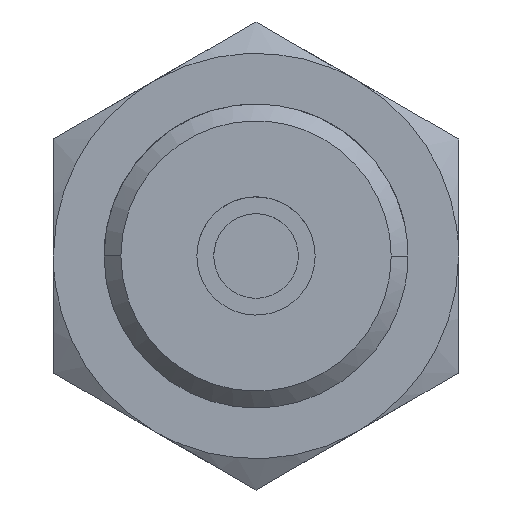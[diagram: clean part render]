
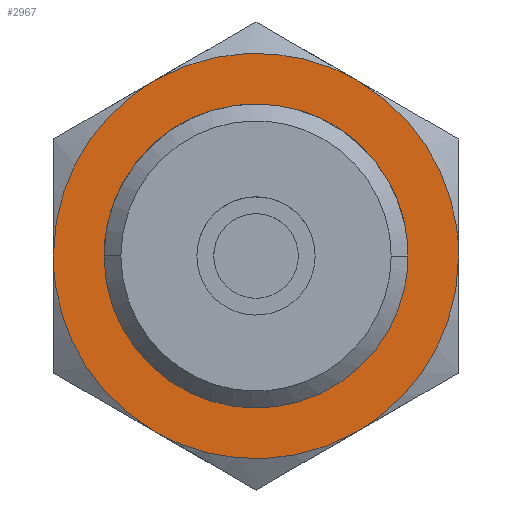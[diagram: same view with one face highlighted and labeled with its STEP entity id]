
A CAD part, front view. The second image highlights one B-rep face of the part: STEP entity #2967.
In plain terms, the highlighted free-form (B-spline) face has degree [1, 1] with [2, 2] control points.
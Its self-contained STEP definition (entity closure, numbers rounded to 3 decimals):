
#2556=CARTESIAN_POINT('V76',(9.0,-25.0,0.));
#2557=VERTEX_POINT('V76',#2556);
#2558=CARTESIAN_POINT('V77',(-9.0,-25.0,0.));
#2559=VERTEX_POINT('V77',#2558);
#2560=CARTESIAN_POINT('E129',(9.0,-25.0,0.0));
#2561=CARTESIAN_POINT('E129',(9.0,-25.0,9.0));
#2562=CARTESIAN_POINT('E129',(0.0,-25.0,9.0));
#2563=CARTESIAN_POINT('E129',(-9.0,-25.0,9.0));
#2564=CARTESIAN_POINT('E129',(-9.0,-25.0,0.0));
#2572=(BOUNDED_CURVE()B_SPLINE_CURVE(2,(#2560,#2561,#2562,#2563,
   #2564),.CIRCULAR_ARC.,.F.,.U.)B_SPLINE_CURVE_WITH_KNOTS((3,2,3),
   (0.0,0.5,1.0),.UNSPECIFIED.)CURVE()
   GEOMETRIC_REPRESENTATION_ITEM()RATIONAL_B_SPLINE_CURVE((1.0,
   0.707,1.0,0.707,1.0))REPRESENTATION_ITEM(
   'E129'));
#2573=EDGE_CURVE('E129',#2557,#2559,#2572,.T.);
#2619=CARTESIAN_POINT('E135',(-9.0,-25.0,0.0));
#2620=CARTESIAN_POINT('E135',(-9.0,-25.0,-9.0));
#2621=CARTESIAN_POINT('E135',(0.0,-25.0,-9.0));
#2622=CARTESIAN_POINT('E135',(9.0,-25.0,-9.0));
#2623=CARTESIAN_POINT('E135',(9.0,-25.0,0.0));
#2631=(BOUNDED_CURVE()B_SPLINE_CURVE(2,(#2619,#2620,#2621,#2622,
   #2623),.CIRCULAR_ARC.,.F.,.U.)B_SPLINE_CURVE_WITH_KNOTS((3,2,3),
   (0.0,0.5,1.0),.UNSPECIFIED.)CURVE()
   GEOMETRIC_REPRESENTATION_ITEM()RATIONAL_B_SPLINE_CURVE((1.0,
   0.707,1.0,0.707,1.0))REPRESENTATION_ITEM(
   'E135'));
#2632=EDGE_CURVE('E135',#2559,#2557,#2631,.T.);
#2740=CARTESIAN_POINT('V59',(-6.,-25.0,
   -10.392));
#2741=VERTEX_POINT('V59',#2740);
#2757=CARTESIAN_POINT('V53',(6.,-25.0,
   -10.392));
#2758=VERTEX_POINT('V53',#2757);
#2772=CARTESIAN_POINT('E124',(6.0,-25.0,-10.392));
#2773=CARTESIAN_POINT('E124',(0.,-25.0,
   -13.856));
#2774=CARTESIAN_POINT('E124',(-6.0,-25.0,-10.392));
#2782=(BOUNDED_CURVE()B_SPLINE_CURVE(2,(#2772,#2773,#2774),
   .CIRCULAR_ARC.,.F.,.U.)CURVE()GEOMETRIC_REPRESENTATION_ITEM()
   QUASI_UNIFORM_CURVE()RATIONAL_B_SPLINE_CURVE((1.0,
   0.866,1.0))REPRESENTATION_ITEM('E124'));
#2783=EDGE_CURVE('E124',#2758,#2741,#2782,.T.);
#2865=CARTESIAN_POINT('V66',(12.0,-25.0,0.));
#2866=VERTEX_POINT('V66',#2865);
#2880=CARTESIAN_POINT('E123',(12.0,-25.0,0.0));
#2881=CARTESIAN_POINT('E123',(12.0,-25.0,-6.928));
#2882=CARTESIAN_POINT('E123',(6.0,-25.0,-10.392));
#2890=(BOUNDED_CURVE()B_SPLINE_CURVE(2,(#2880,#2881,#2882),
   .CIRCULAR_ARC.,.F.,.U.)CURVE()GEOMETRIC_REPRESENTATION_ITEM()
   QUASI_UNIFORM_CURVE()RATIONAL_B_SPLINE_CURVE((1.0,
   0.866,1.0))REPRESENTATION_ITEM('E123'));
#2891=EDGE_CURVE('E123',#2866,#2758,#2890,.T.);
#2896=CARTESIAN_POINT('F63',(-13.2,-25.0,
   13.178));
#2897=CARTESIAN_POINT('F63',(-13.2,-25.0,
   -13.178));
#2898=CARTESIAN_POINT('F63',(13.2,-25.0,
   13.178));
#2899=CARTESIAN_POINT('F63',(13.2,-25.0,
   -13.178));
#2900=QUASI_UNIFORM_SURFACE('F63',1,1,((#2896,#2898),(#2897,#2899))
,.PLANE_SURF.,.F.,.F.,.U.);
#2901=ORIENTED_EDGE('F53',*,*,#2891,.F.);
#2902=CARTESIAN_POINT('V70',(6.,-25.0,
   10.392));
#2903=VERTEX_POINT('V70',#2902);
#2904=CARTESIAN_POINT('E128',(6.0,-25.0,10.392));
#2905=CARTESIAN_POINT('E128',(12.0,-25.0,6.928));
#2906=CARTESIAN_POINT('E128',(12.0,-25.0,0.0));
#2914=(BOUNDED_CURVE()B_SPLINE_CURVE(2,(#2904,#2905,#2906),
   .CIRCULAR_ARC.,.F.,.U.)CURVE()GEOMETRIC_REPRESENTATION_ITEM()
   QUASI_UNIFORM_CURVE()RATIONAL_B_SPLINE_CURVE((1.0,
   0.866,1.0))REPRESENTATION_ITEM('E128'));
#2915=EDGE_CURVE('E128',#2903,#2866,#2914,.T.);
#2916=ORIENTED_EDGE('E128',*,*,#2915,.F.);
#2917=CARTESIAN_POINT('V74',(-6.,-25.0,
   10.392));
#2918=VERTEX_POINT('V74',#2917);
#2919=CARTESIAN_POINT('E127',(-6.0,-25.0,10.392));
#2920=CARTESIAN_POINT('E127',(0.,-25.0,
   13.856));
#2921=CARTESIAN_POINT('E127',(6.0,-25.0,10.392));
#2929=(BOUNDED_CURVE()B_SPLINE_CURVE(2,(#2919,#2920,#2921),
   .CIRCULAR_ARC.,.F.,.U.)CURVE()GEOMETRIC_REPRESENTATION_ITEM()
   QUASI_UNIFORM_CURVE()RATIONAL_B_SPLINE_CURVE((1.0,
   0.866,1.0))REPRESENTATION_ITEM('E127'));
#2930=EDGE_CURVE('E127',#2918,#2903,#2929,.T.);
#2931=ORIENTED_EDGE('E127',*,*,#2930,.F.);
#2932=CARTESIAN_POINT('V63',(-12.0,-25.0,0.));
#2933=VERTEX_POINT('V63',#2932);
#2934=CARTESIAN_POINT('E126',(-12.0,-25.0,0.0));
#2935=CARTESIAN_POINT('E126',(-12.0,-25.0,6.928));
#2936=CARTESIAN_POINT('E126',(-6.0,-25.0,10.392));
#2944=(BOUNDED_CURVE()B_SPLINE_CURVE(2,(#2934,#2935,#2936),
   .CIRCULAR_ARC.,.F.,.U.)CURVE()GEOMETRIC_REPRESENTATION_ITEM()
   QUASI_UNIFORM_CURVE()RATIONAL_B_SPLINE_CURVE((1.0,
   0.866,1.0))REPRESENTATION_ITEM('E126'));
#2945=EDGE_CURVE('E126',#2933,#2918,#2944,.T.);
#2946=ORIENTED_EDGE('E126',*,*,#2945,.F.);
#2947=CARTESIAN_POINT('E125',(-6.0,-25.0,-10.392));
#2948=CARTESIAN_POINT('E125',(-12.0,-25.0,-6.928));
#2949=CARTESIAN_POINT('E125',(-12.0,-25.0,0.0));
#2957=(BOUNDED_CURVE()B_SPLINE_CURVE(2,(#2947,#2948,#2949),
   .CIRCULAR_ARC.,.F.,.U.)CURVE()GEOMETRIC_REPRESENTATION_ITEM()
   QUASI_UNIFORM_CURVE()RATIONAL_B_SPLINE_CURVE((1.0,
   0.866,1.0))REPRESENTATION_ITEM('E125'));
#2958=EDGE_CURVE('E125',#2741,#2933,#2957,.T.);
#2959=ORIENTED_EDGE('E125',*,*,#2958,.F.);
#2960=ORIENTED_EDGE('F54',*,*,#2783,.F.);
#2961=EDGE_LOOP('F63',(#2901,#2916,#2931,#2946,#2959,#2960));
#2962=FACE_OUTER_BOUND('F63',#2961,.T.);
#2963=ORIENTED_EDGE('E135',*,*,#2632,.F.);
#2964=ORIENTED_EDGE('E129',*,*,#2573,.F.);
#2965=EDGE_LOOP('F63',(#2963,#2964));
#2966=FACE_BOUND('F63',#2965,.T.);
#2967=ADVANCED_FACE('F63',(#2962,#2966),#2900,.T.);
